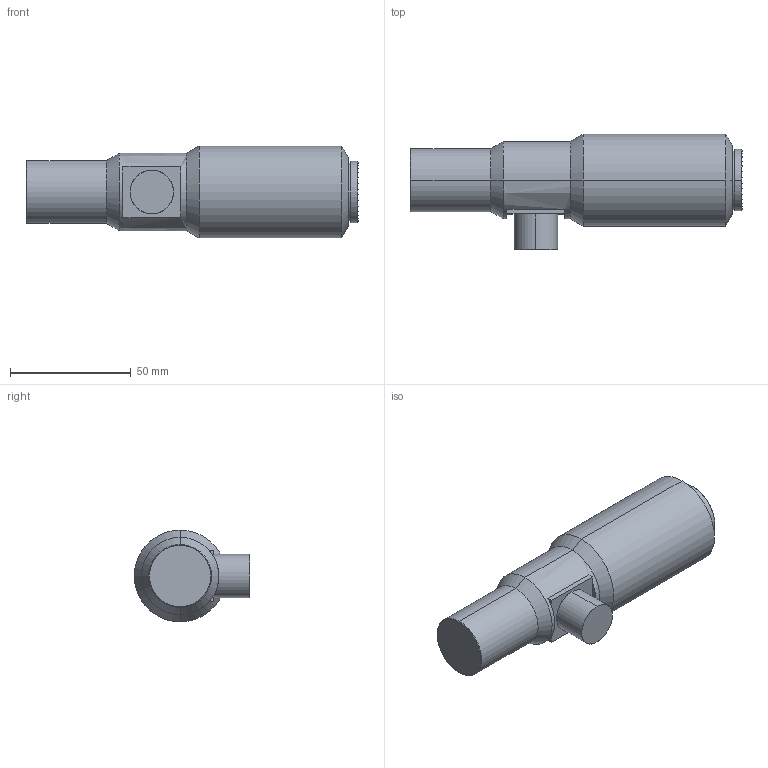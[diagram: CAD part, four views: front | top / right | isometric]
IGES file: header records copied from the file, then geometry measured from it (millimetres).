
Start section: SolidWorks IGES file using analytic representation for surfaces
Global section: file name: C:\Users\Administrator\Desktop\sw\DTCA\新建文件夹\DTCA430-11.5C\DTCA430-11.5C IGES图.IGS; native system: SolidWorks 2017; preprocessor: SolidWorks 2017; author: Administrator; date: 191112.161851; units: millimetre
Bounding box: 137.4 x 47.8 x 38 mm (x, y, z)
Surface area: 16823.8 mm2 (no closed solid volume)
Topology: 0 solids, 0 shells, 36 faces, 434 edges, 434 vertices
Faces by surface type: revolution 22, bspline 14
